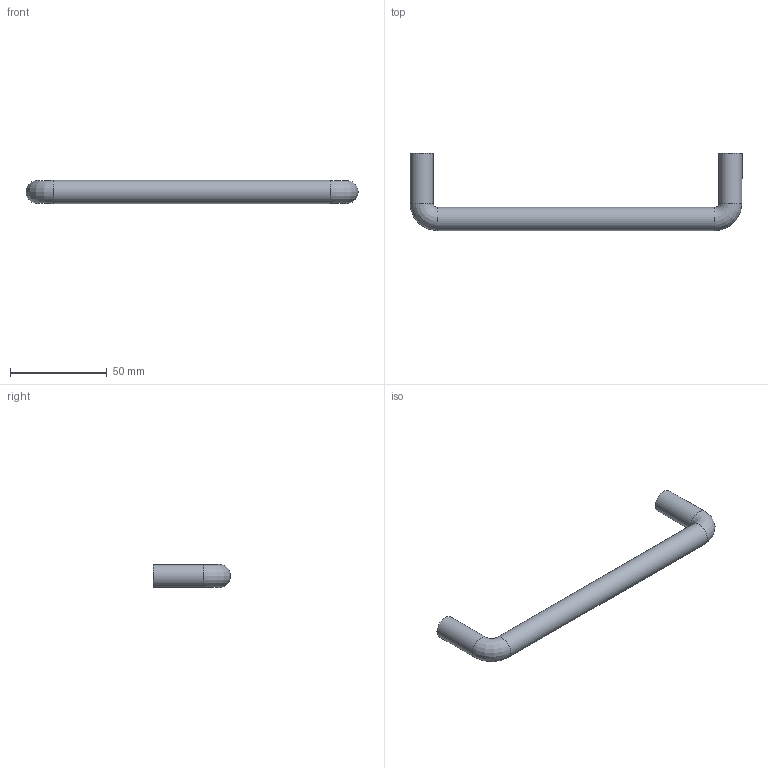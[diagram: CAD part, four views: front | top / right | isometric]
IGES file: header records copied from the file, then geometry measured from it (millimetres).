
Start section: Data from Parasolid IGES Translator 15.0.47, Copyright(c) 2006 Siemens P LM Software. All Rights Reserved.
Global section: file name: 9070117.igs; native system:  By UGS Corp.; preprocessor: XPlus GENERIC/IGES 3.0; author: Noname; organization: Noname; date: 20140122.155439; units: millimetre
Bounding box: 172 x 40 x 12 mm (x, y, z)
Surface area: 8814 mm2 (no closed solid volume)
Topology: 0 solids, 0 shells, 11 faces, 42 edges, 38 vertices
Faces by surface type: revolution 7, extrusion 4
